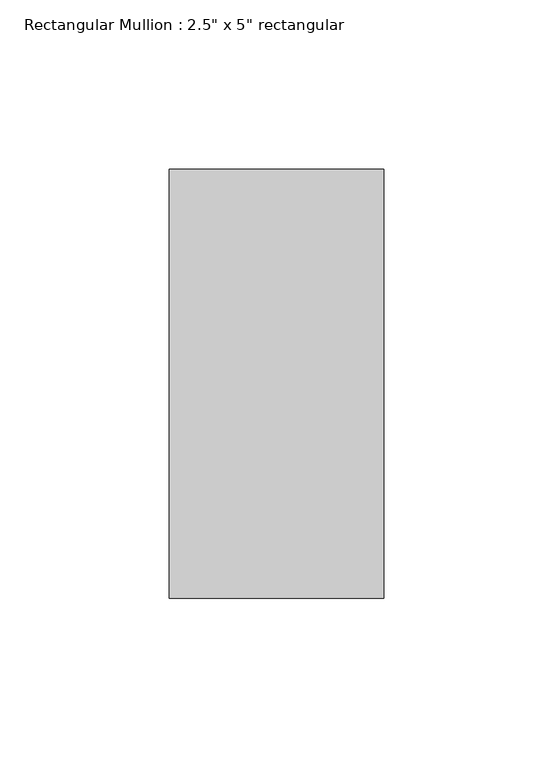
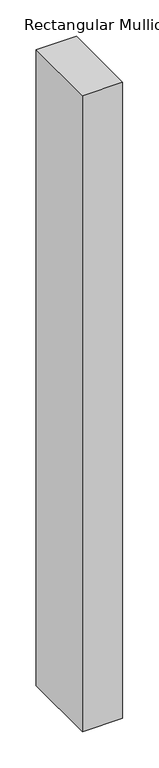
"""IFC4 building model written with IfcOpenShell, lengths in millimetres: member geometry."""

from ifc_helpers import new_model, si_unit, frame, origin, place, context, project, spatial, polyline, outline, extrude, source, transform, mapped, element, save


def member_c66fc3aa(model_context):
    return source(origin(), model_context, "Body", "SweptSolid", [
        extrude(outline(polyline([(0.0, 63.5), (0.0, -63.5), (-63.5, -63.5), (-63.5, 63.5), (0.0, 63.5)])), frame((0.0, 0.0, -1064.2599999), z_axis=(0.0, 0.0, 1.0), x_axis=(1.0, 0.0, 0.0)), (0.0, 0.0, 1.0), 1064.2599999),
    ])


if __name__ == "__main__":
    model = new_model("IFC4")
    model_context = context("Model", 3, world=origin())
    ifc_project = project(units=[si_unit("LENGTHUNIT", "METRE", prefix="MILLI")], contexts=[model_context])
    site = spatial("IfcSite", under=ifc_project)
    building = spatial("IfcBuilding", under=site)
    placement = place(None, origin())
    member_shape = member_c66fc3aa(model_context)
    element("IfcMember", 1, ObjectType="Rectangular Mullion : 2.5\" x 5\" rectangular", at=placement, inside=building, context=model_context, shape_type="MappedRepresentation", body=[
        mapped(member_shape, transform((0.0, 0.0, 0.0), x_axis=(1.0, 0.0, 0.0), y_axis=(0.0, 1.0, 0.0), z_axis=(0.0, 0.0, 1.0))),
    ])
    save(model, "model.ifc")
